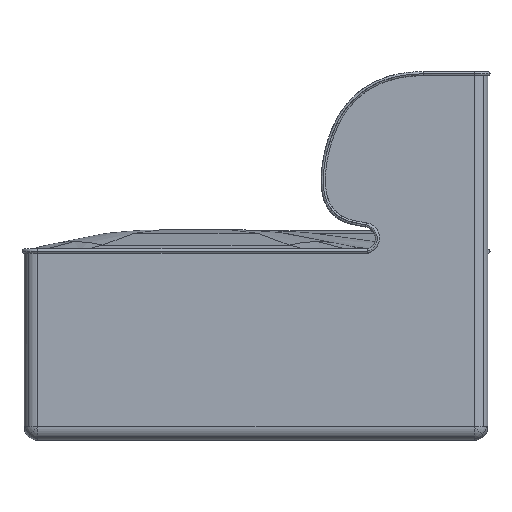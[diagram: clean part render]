
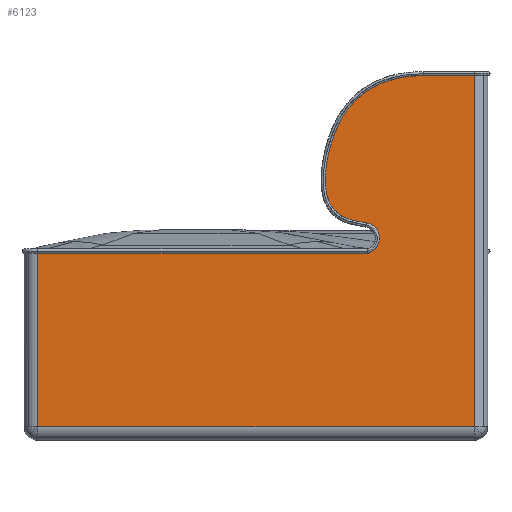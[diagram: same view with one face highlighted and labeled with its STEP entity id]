
A CAD part, front view. The second image highlights one B-rep face of the part: STEP entity #6123.
In plain terms, the highlighted planar face has unit normal (0, -1, 0).
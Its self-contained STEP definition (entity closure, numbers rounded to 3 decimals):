
#125 = LINE ( 'NONE', #5171, #6527 ) ;
#274 = CARTESIAN_POINT ( 'NONE',  ( -1745., -6100., 680. ) ) ;
#346 = EDGE_CURVE ( 'NONE', #4918, #5051, #125, .T. ) ;
#529 = CARTESIAN_POINT ( 'NONE',  ( -2012.496, -6100., 562.111 ) ) ;
#539 = EDGE_CURVE ( 'NONE', #3328, #5051, #6972, .T. ) ;
#682 = VECTOR ( 'NONE', #6536, 1000. ) ;
#730 = AXIS2_PLACEMENT_3D ( 'NONE', #5354, #1943, #4791 ) ;
#735 = CARTESIAN_POINT ( 'NONE',  ( -1950., -6100., 375. ) ) ;
#1022 = CARTESIAN_POINT ( 'NONE',  ( -2023.384, -6100., 457.271 ) ) ;
#1182 = DIRECTION ( 'NONE',  ( 0., -1., 0. ) ) ;
#1587 = CARTESIAN_POINT ( 'NONE',  ( -1840., -6100., 680. ) ) ;
#1644 = CARTESIAN_POINT ( 'NONE',  ( -2012.848, -6100., 431.023 ) ) ;
#1793 = DIRECTION ( 'NONE',  ( 1., 0., 0. ) ) ;
#1815 = DIRECTION ( 'NONE',  ( 1., 0., 0. ) ) ;
#1917 = CARTESIAN_POINT ( 'NONE',  ( -1943., -6100., 653.157 ) ) ;
#1943 = DIRECTION ( 'NONE',  ( 0., 1., 0. ) ) ;
#1948 = VERTEX_POINT ( 'NONE', #5772 ) ;
#2055 = EDGE_CURVE ( 'NONE', #4119, #4918, #7067, .T. ) ;
#2056 = CARTESIAN_POINT ( 'NONE',  ( -1926.499, -6100., 662.561 ) ) ;
#2297 = B_SPLINE_CURVE_WITH_KNOTS ( 'NONE', 3,
 ( #3599, #5880, #3038, #5319, #6689, #2663, #1644, #3926, #1022, #5029, #7312, #3345, #529, #5545, #3306, #6763, #3266, #4947 ),
 .UNSPECIFIED., .F., .F.,
 ( 4, 2, 2, 2, 2, 2, 2, 2, 4 ),
 ( 0., 0.112, 0.182, 0.252, 0.34, 0.494, 0.734, 0.905, 1. ),
 .UNSPECIFIED. ) ;
#2327 = DIRECTION ( 'NONE',  ( 1., 0., 0. ) ) ;
#2394 = CARTESIAN_POINT ( 'NONE',  ( -2046.5, -6100., 351. ) ) ;
#2405 = CARTESIAN_POINT ( 'NONE',  ( -1943., -6100., 351. ) ) ;
#2430 = VERTEX_POINT ( 'NONE', #3150 ) ;
#2515 = ORIENTED_EDGE ( 'NONE', *, *, #6826, .F. ) ;
#2663 = CARTESIAN_POINT ( 'NONE',  ( -2008.068, -6100., 424.656 ) ) ;
#2737 = DIRECTION ( 'NONE',  ( 1., 0., 0. ) ) ;
#2787 = VECTOR ( 'NONE', #7304, 1000. ) ;
#2812 = CIRCLE ( 'NONE', #4229, 25. ) ;
#2824 = LINE ( 'NONE', #6773, #3690 ) ;
#3003 = VECTOR ( 'NONE', #2737, 1000. ) ;
#3019 = DIRECTION ( 'NONE',  ( 1., 0., 0. ) ) ;
#3038 = CARTESIAN_POINT ( 'NONE',  ( -1974.017, -6100., 404.632 ) ) ;
#3055 = EDGE_CURVE ( 'NONE', #4099, #5599, #5687, .T. ) ;
#3150 = CARTESIAN_POINT ( 'NONE',  ( -2046.065, -6100., 351. ) ) ;
#3222 = LINE ( 'NONE', #5027, #3003 ) ;
#3266 = CARTESIAN_POINT ( 'NONE',  ( -1951.96, -6100., 647.478 ) ) ;
#3306 = CARTESIAN_POINT ( 'NONE',  ( -1981.728, -6100., 619.695 ) ) ;
#3317 = ORIENTED_EDGE ( 'NONE', *, *, #3055, .F. ) ;
#3328 = VERTEX_POINT ( 'NONE', #4563 ) ;
#3345 = CARTESIAN_POINT ( 'NONE',  ( -2019.098, -6100., 536.186 ) ) ;
#3354 = DIRECTION ( 'NONE',  ( 0., 0., -1. ) ) ;
#3368 = LINE ( 'NONE', #5642, #2787 ) ;
#3599 = CARTESIAN_POINT ( 'NONE',  ( -1946., -6100., 399.678 ) ) ;
#3690 = VECTOR ( 'NONE', #3354, 1000. ) ;
#3730 = CARTESIAN_POINT ( 'NONE',  ( -1943., -6100., 653.157 ) ) ;
#3866 = ORIENTED_EDGE ( 'NONE', *, *, #6178, .T. ) ;
#3926 = CARTESIAN_POINT ( 'NONE',  ( -2020.958, -6100., 447.297 ) ) ;
#4057 = EDGE_CURVE ( 'NONE', #5236, #4099, #2812, .T. ) ;
#4099 = VERTEX_POINT ( 'NONE', #6006 ) ;
#4119 = VERTEX_POINT ( 'NONE', #1917 ) ;
#4229 = AXIS2_PLACEMENT_3D ( 'NONE', #735, #1182, #3019 ) ;
#4252 = CARTESIAN_POINT ( 'NONE',  ( -1745., -6100., 680. ) ) ;
#4302 = ORIENTED_EDGE ( 'NONE', *, *, #6838, .T. ) ;
#4336 = CARTESIAN_POINT ( 'NONE',  ( -1868.638, -6100., 680. ) ) ;
#4465 = ORIENTED_EDGE ( 'NONE', *, *, #7188, .F. ) ;
#4488 = CARTESIAN_POINT ( 'NONE',  ( -1946., -6100., 399.678 ) ) ;
#4539 = ORIENTED_EDGE ( 'NONE', *, *, #346, .F. ) ;
#4550 = ORIENTED_EDGE ( 'NONE', *, *, #5704, .F. ) ;
#4563 = CARTESIAN_POINT ( 'NONE',  ( -1745., -6100., 25. ) ) ;
#4641 = EDGE_CURVE ( 'NONE', #2430, #5236, #3368, .T. ) ;
#4742 = ORIENTED_EDGE ( 'NONE', *, *, #4641, .F. ) ;
#4761 = VECTOR ( 'NONE', #1815, 1000. ) ;
#4791 = DIRECTION ( 'NONE',  ( 0., 0., 1. ) ) ;
#4918 = VERTEX_POINT ( 'NONE', #1587 ) ;
#4947 = CARTESIAN_POINT ( 'NONE',  ( -1943., -6100., 653.157 ) ) ;
#5027 = CARTESIAN_POINT ( 'NONE',  ( -1768.75, -6100., 25. ) ) ;
#5029 = CARTESIAN_POINT ( 'NONE',  ( -2026.47, -6100., 485.001 ) ) ;
#5051 = VERTEX_POINT ( 'NONE', #274 ) ;
#5107 = LINE ( 'NONE', #6700, #6906 ) ;
#5171 = CARTESIAN_POINT ( 'NONE',  ( -1846.648, -6100., 680. ) ) ;
#5236 = VERTEX_POINT ( 'NONE', #2405 ) ;
#5280 = DIRECTION ( 'NONE',  ( 0., -1., 0. ) ) ;
#5319 = CARTESIAN_POINT ( 'NONE',  ( -1989.444, -6100., 410.732 ) ) ;
#5354 = CARTESIAN_POINT ( 'NONE',  ( -1943., -6100., 351. ) ) ;
#5502 = CARTESIAN_POINT ( 'NONE',  ( -1894.675, -6100., 675.443 ) ) ;
#5513 = VERTEX_POINT ( 'NONE', #5611 ) ;
#5545 = CARTESIAN_POINT ( 'NONE',  ( -1992.37, -6100., 603.831 ) ) ;
#5599 = VERTEX_POINT ( 'NONE', #4488 ) ;
#5611 = CARTESIAN_POINT ( 'NONE',  ( -2555., -6100., 25. ) ) ;
#5642 = CARTESIAN_POINT ( 'NONE',  ( -2046.5, -6100., 351. ) ) ;
#5687 = CIRCLE ( 'NONE', #6860, 25. ) ;
#5704 = EDGE_CURVE ( 'NONE', #5836, #1948, #6965, .T. ) ;
#5772 = CARTESIAN_POINT ( 'NONE',  ( -2476.935, -6100., 351. ) ) ;
#5836 = VERTEX_POINT ( 'NONE', #7143 ) ;
#5880 = CARTESIAN_POINT ( 'NONE',  ( -1963.597, -6100., 402.53 ) ) ;
#6006 = CARTESIAN_POINT ( 'NONE',  ( -1925., -6100., 375. ) ) ;
#6020 = CARTESIAN_POINT ( 'NONE',  ( -1934.989, -6100., 658.232 ) ) ;
#6123 = ADVANCED_FACE ( 'NONE', ( #7118 ), #6472, .F. ) ;
#6178 = EDGE_CURVE ( 'NONE', #5513, #3328, #3222, .T. ) ;
#6264 = DIRECTION ( 'NONE',  ( 1., 0., 0. ) ) ;
#6472 = PLANE ( 'NONE',  #730 ) ;
#6527 = VECTOR ( 'NONE', #2327, 1000. ) ;
#6536 = DIRECTION ( 'NONE',  ( 0., 0., 1. ) ) ;
#6611 = CARTESIAN_POINT ( 'NONE',  ( -1840., -6100., 680. ) ) ;
#6648 = ORIENTED_EDGE ( 'NONE', *, *, #2055, .F. ) ;
#6689 = CARTESIAN_POINT ( 'NONE',  ( -1995.902, -6100., 414.112 ) ) ;
#6700 = CARTESIAN_POINT ( 'NONE',  ( -2046.5, -6100., 351. ) ) ;
#6763 = CARTESIAN_POINT ( 'NONE',  ( -1960.32, -6100., 640.865 ) ) ;
#6773 = CARTESIAN_POINT ( 'NONE',  ( -2555., -6100., 510. ) ) ;
#6826 = EDGE_CURVE ( 'NONE', #1948, #2430, #5107, .T. ) ;
#6838 = EDGE_CURVE ( 'NONE', #5836, #5513, #2824, .T. ) ;
#6860 = AXIS2_PLACEMENT_3D ( 'NONE', #6942, #5280, #1793 ) ;
#6894 = EDGE_LOOP ( 'NONE', ( #4465, #3317, #7044, #4742, #2515, #4550, #4302, #3866, #7195, #4539, #6648 ) ) ;
#6906 = VECTOR ( 'NONE', #6264, 1000. ) ;
#6942 = CARTESIAN_POINT ( 'NONE',  ( -1950., -6100., 375. ) ) ;
#6965 = LINE ( 'NONE', #2394, #4761 ) ;
#6972 = LINE ( 'NONE', #4252, #682 ) ;
#7044 = ORIENTED_EDGE ( 'NONE', *, *, #4057, .F. ) ;
#7067 = B_SPLINE_CURVE_WITH_KNOTS ( 'NONE', 3,
 ( #3730, #6020, #2056, #5502, #4336, #6611 ),
 .UNSPECIFIED., .F., .F.,
 ( 4, 2, 4 ),
 ( 0., 0.28, 1. ),
 .UNSPECIFIED. ) ;
#7118 = FACE_OUTER_BOUND ( 'NONE', #6894, .T. ) ;
#7143 = CARTESIAN_POINT ( 'NONE',  ( -2555., -6100., 351. ) ) ;
#7188 = EDGE_CURVE ( 'NONE', #5599, #4119, #2297, .T. ) ;
#7195 = ORIENTED_EDGE ( 'NONE', *, *, #539, .T. ) ;
#7304 = DIRECTION ( 'NONE',  ( 1., 0., 0. ) ) ;
#7312 = CARTESIAN_POINT ( 'NONE',  ( -2024.453, -6100., 503.218 ) ) ;
